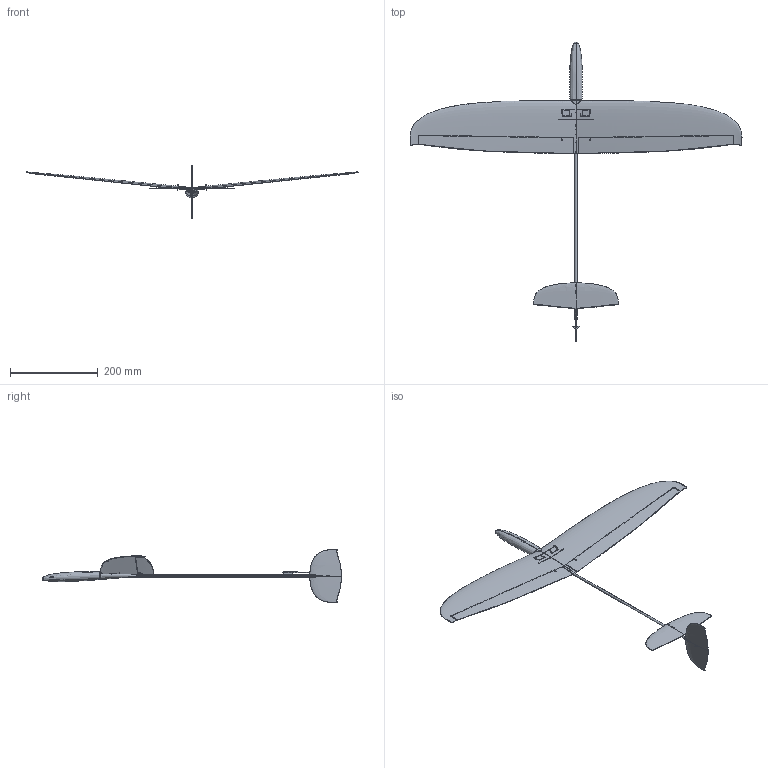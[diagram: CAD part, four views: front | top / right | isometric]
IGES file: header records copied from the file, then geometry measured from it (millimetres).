
Global section: file name: C:\Users\Robert\Dropbox\My PC (LAPTOP-VO95AKPS)\Desktop\AIRES ULTRA PRO\AIRES ULTRA PRO - 20220429 IGES.igs; native system: Rhinoceros ( Mar  9 2011 ); preprocessor: Trout Lake IGES 012 Mar  9 2011; date: 220603.203929; units: millimetre
Bounding box: 755.33 x 681.31 x 120 mm (x, y, z)
Surface area: 230682.5 mm2 (no closed solid volume)
Topology: 0 solids, 0 shells, 576 faces, 18669 edges, 18656 vertices
Faces by surface type: bspline 576
